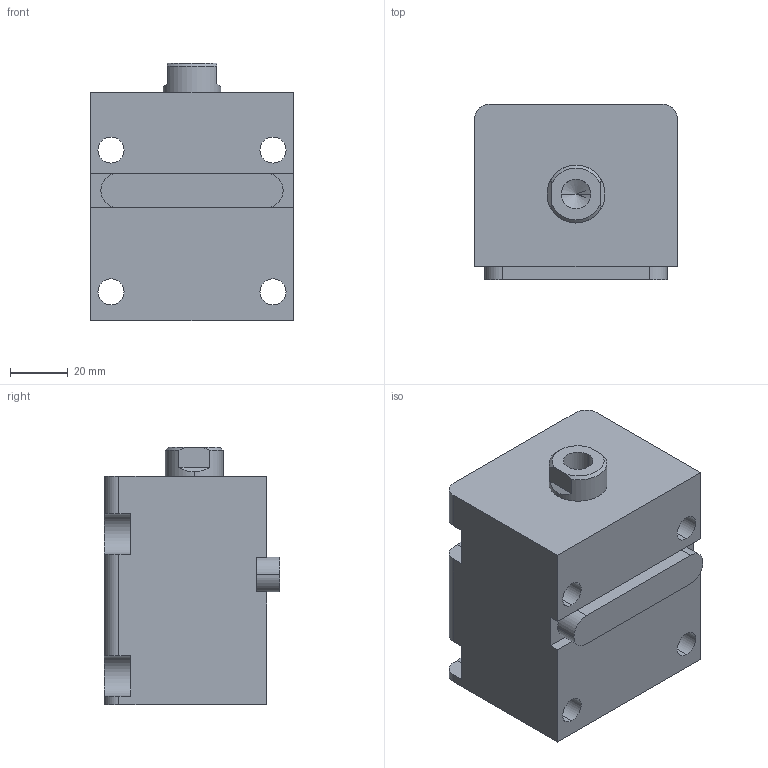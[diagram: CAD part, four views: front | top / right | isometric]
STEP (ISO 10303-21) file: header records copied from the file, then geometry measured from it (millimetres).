
FILE_DESCRIPTION (( 'STEP AP203' ), '1' );
FILE_NAME ('HTB-LA32-25N.STEP', '2019-10-09T06:26:10', ( '微软用户' ), ( '微软中国' ), 'SwSTEP 2.0', 'SolidWorks 2012', '' );
FILE_SCHEMA (( 'CONFIG_CONTROL_DESIGN' ));
Length unit declared in the file: millimetre
Products named in the file (4): HTB-LA32-25掛极; HTB-LA32-25N活塞杆; HTB-LA32-瑩; HTB-LA32-25N
Assembly tree (3 placements, depth 2):
  HTB-LA32-25N
    HTB-LA32-25掛极
    HTB-LA32-25N活塞杆
    HTB-LA32-瑩
Bounding box: 70 x 60.5 x 89 mm (x, y, z)
Volume: 281127.2 mm3; surface area: 51276.4 mm2
Topology: 3 solids, 3 shells, 88 faces, 217 edges, 141 vertices
Faces by surface type: plane 39, cylinder 35, cone 8, torus 6
Entity records: 3053 total; most frequent: DIRECTION 487, CARTESIAN_POINT 478, ORIENTED_EDGE 430, EDGE_CURVE 215, AXIS2_PLACEMENT_3D 186, VERTEX_POINT 141, VECTOR 115, LINE 115
